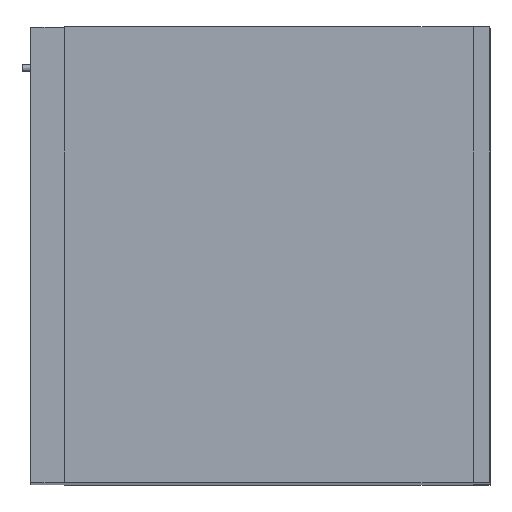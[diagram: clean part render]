
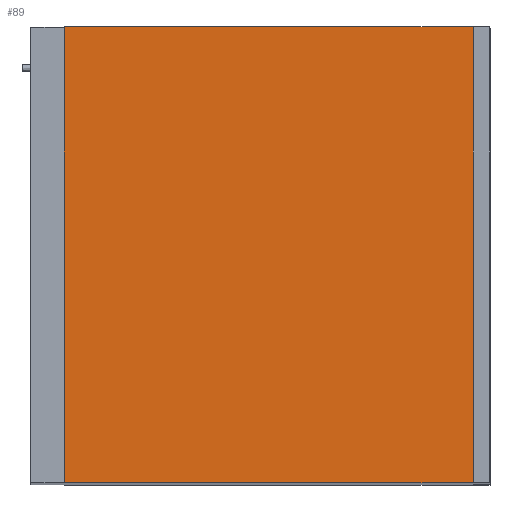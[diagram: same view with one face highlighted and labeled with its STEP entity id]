
A CAD part, top view. The second image highlights one B-rep face of the part: STEP entity #89.
In plain terms, the highlighted free-form (B-spline) face has degree [1, 1] with [2, 2] control points.
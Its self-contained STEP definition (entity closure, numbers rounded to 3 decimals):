
#89=ADVANCED_FACE('',(#119),#391,.T.);
#119=FACE_OUTER_BOUND('',#149,.T.);
#149=EDGE_LOOP('',(#253,#254,#255,#256));
#253=ORIENTED_EDGE('',*,*,#320,.F.);
#254=ORIENTED_EDGE('',*,*,#322,.T.);
#255=ORIENTED_EDGE('',*,*,#323,.T.);
#256=ORIENTED_EDGE('',*,*,#317,.F.);
#317=EDGE_CURVE('',#359,#360,#443,.T.);
#320=EDGE_CURVE('',#362,#359,#446,.T.);
#322=EDGE_CURVE('',#362,#363,#448,.T.);
#323=EDGE_CURVE('',#363,#360,#449,.T.);
#359=VERTEX_POINT('',#1022);
#360=VERTEX_POINT('',#1023);
#362=VERTEX_POINT('',#1025);
#363=VERTEX_POINT('',#1026);
#391=B_SPLINE_SURFACE_WITH_KNOTS('',1,1,((#1000,#1001),(#1002,#1003)),.UNSPECIFIED.,
.F.,.F.,.F.,(2,2),(2,2),(0.,1.),(0.,1.),.UNSPECIFIED.);
#443=B_SPLINE_CURVE_WITH_KNOTS('',1,(#970,#971),.UNSPECIFIED.,.F.,.F.,(2,
2),(0.,1.),.UNSPECIFIED.);
#446=B_SPLINE_CURVE_WITH_KNOTS('',1,(#976,#977),.UNSPECIFIED.,.F.,.F.,(2,
2),(0.,1.),.UNSPECIFIED.);
#448=B_SPLINE_CURVE_WITH_KNOTS('',1,(#980,#981),.UNSPECIFIED.,.F.,.F.,(2,
2),(0.,1.),.UNSPECIFIED.);
#449=B_SPLINE_CURVE_WITH_KNOTS('',1,(#982,#983),.UNSPECIFIED.,.F.,.F.,(2,
2),(0.,1.),.UNSPECIFIED.);
#970=CARTESIAN_POINT('',(-504.173,-270.,1770.));
#971=CARTESIAN_POINT('',(-504.173,270.,1770.));
#976=CARTESIAN_POINT('',(-20.173,-270.,1770.));
#977=CARTESIAN_POINT('',(-504.173,-270.,1770.));
#980=CARTESIAN_POINT('',(-20.173,-270.,1770.));
#981=CARTESIAN_POINT('',(-20.173,270.,1770.));
#982=CARTESIAN_POINT('',(-20.173,270.,1770.));
#983=CARTESIAN_POINT('',(-504.173,270.,1770.));
#1000=CARTESIAN_POINT('',(-20.173,-270.,1770.));
#1001=CARTESIAN_POINT('',(-504.173,-270.,1770.));
#1002=CARTESIAN_POINT('',(-20.173,270.,1770.));
#1003=CARTESIAN_POINT('',(-504.173,270.,1770.));
#1022=CARTESIAN_POINT('',(-504.173,-270.,1770.));
#1023=CARTESIAN_POINT('',(-504.173,270.,1770.));
#1025=CARTESIAN_POINT('',(-20.173,-270.,1770.));
#1026=CARTESIAN_POINT('',(-20.173,270.,1770.));
